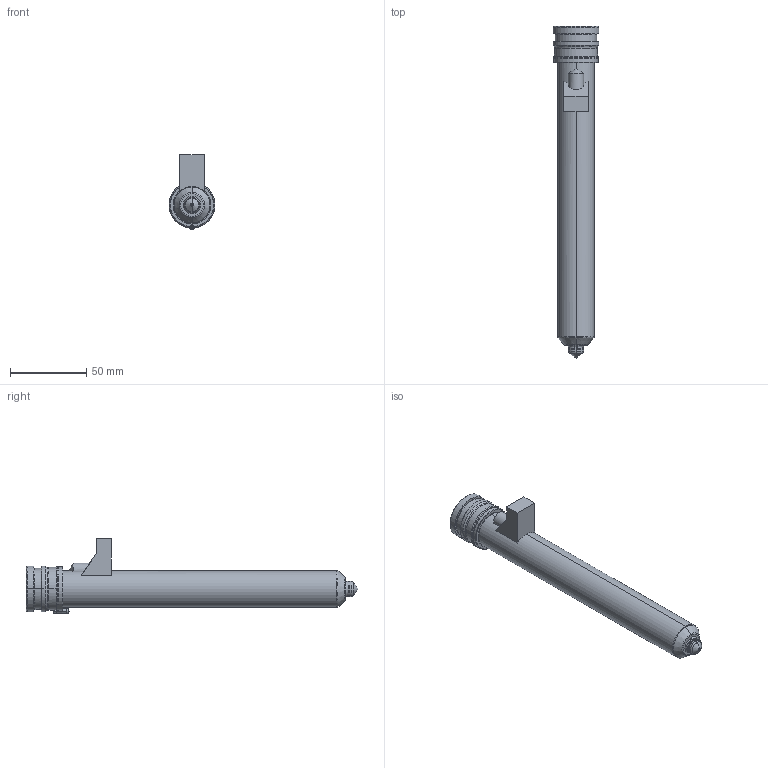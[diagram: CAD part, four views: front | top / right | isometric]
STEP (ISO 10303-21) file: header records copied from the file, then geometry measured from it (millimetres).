
FILE_DESCRIPTION((''),'2;1');
FILE_NAME('MPN-10-29-TX10-196-M','2026-02-05T12:52:06',('UPTIO'),('Thermoplay S.p.A.'),'CREO PARAMETRIC BY PTC INC, 2023494','CREO PARAMETRIC BY PTC INC, 2023494','');
FILE_SCHEMA(('CONFIG_CONTROL_DESIGN','SHAPE_APPEARANCE_LAYERS_GROUPS'));
Length unit declared in the file: millimetre
Products named in the file (1): MPN-10-29-TX10-196-M
Bounding box: 30 x 217.5 x 49 mm (x, y, z)
Volume: 67096.7 mm3; surface area: 68898.5 mm2
Topology: 3 solids, 5 shells, 541 faces, 1383 edges, 844 vertices
Faces by surface type: cylinder 177, plane 146, bspline 73, torus 67, cone 64, sphere 10, extrusion 4
Entity records: 29203 total; most frequent: CARTESIAN_POINT 13437, ORIENTED_EDGE 2748, DIRECTION 2568, EDGE_CURVE 1374, AXIS2_PLACEMENT_3D 1017, VERTEX_POINT 844, EDGE_LOOP 570, CIRCLE 552
